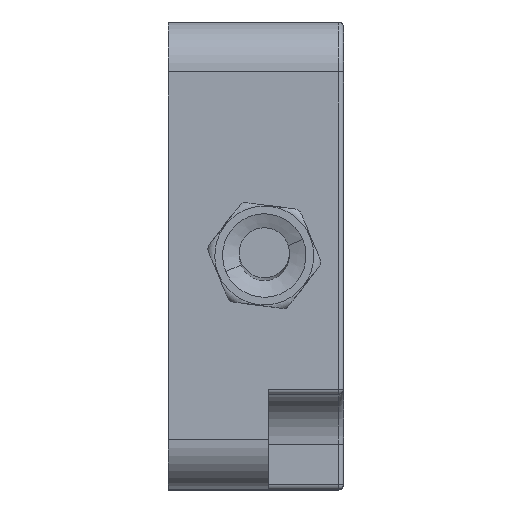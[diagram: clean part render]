
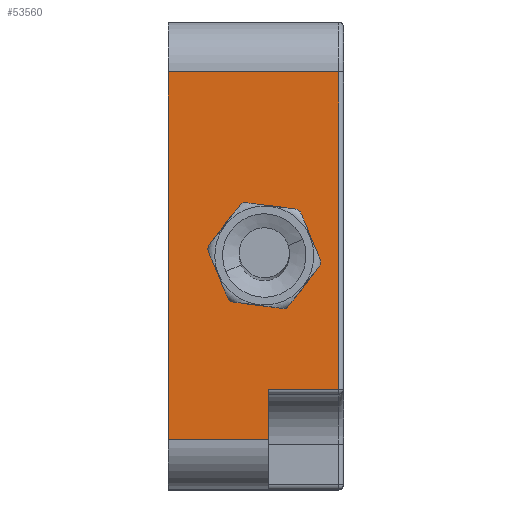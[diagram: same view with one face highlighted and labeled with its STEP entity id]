
A CAD part, top view. The second image highlights one B-rep face of the part: STEP entity #53560.
In plain terms, the highlighted planar face has unit normal (0, 0, 1).
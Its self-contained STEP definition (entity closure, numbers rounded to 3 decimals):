
#1179 = VERTEX_POINT ( 'NONE', #29872 ) ;
#2506 = CARTESIAN_POINT ( 'NONE',  ( 0., 14., 14. ) ) ;
#3420 = DIRECTION ( 'NONE',  ( 0., 0., 1. ) ) ;
#3576 = LINE ( 'NONE', #74008, #41723 ) ;
#3768 = DIRECTION ( 'NONE',  ( 1., 0., 0. ) ) ;
#6385 = CARTESIAN_POINT ( 'NONE',  ( 10.2, -8., 14. ) ) ;
#6468 = EDGE_CURVE ( 'NONE', #39587, #44352, #42503, .T. ) ;
#7460 = DIRECTION ( 'NONE',  ( 0., -1., 0. ) ) ;
#7676 = EDGE_CURVE ( 'NONE', #57811, #44949, #23048, .T. ) ;
#8774 = ORIENTED_EDGE ( 'NONE', *, *, #7676, .T. ) ;
#9456 = LINE ( 'NONE', #62726, #74661 ) ;
#9908 = EDGE_CURVE ( 'NONE', #1179, #57811, #55933, .T. ) ;
#13323 = EDGE_CURVE ( 'NONE', #21842, #64148, #55627, .T. ) ;
#13933 = CIRCLE ( 'NONE', #26132, 2.5 ) ;
#14241 = LINE ( 'NONE', #43197, #47879 ) ;
#14820 = CARTESIAN_POINT ( 'NONE',  ( 5.75, 0., 14. ) ) ;
#15156 = FACE_BOUND ( 'NONE', #41278, .T. ) ;
#15548 = DIRECTION ( 'NONE',  ( 0., 0., -1. ) ) ;
#15992 = CARTESIAN_POINT ( 'NONE',  ( 0., -11., 14. ) ) ;
#16896 = VERTEX_POINT ( 'NONE', #60719 ) ;
#17567 = VECTOR ( 'NONE', #3768, 1000. ) ;
#17699 = CARTESIAN_POINT ( 'NONE',  ( 10.2, 11., 14. ) ) ;
#21376 = EDGE_CURVE ( 'NONE', #64148, #21842, #13933, .T. ) ;
#21842 = VERTEX_POINT ( 'NONE', #45865 ) ;
#22402 = CARTESIAN_POINT ( 'NONE',  ( 5.75, 0., 14. ) ) ;
#23048 = LINE ( 'NONE', #17699, #51102 ) ;
#24727 = EDGE_LOOP ( 'NONE', ( #47791, #8774, #31064, #34908, #64559, #50564 ) ) ;
#26132 = AXIS2_PLACEMENT_3D ( 'NONE', #14820, #3420, #26651 ) ;
#26598 = DIRECTION ( 'NONE',  ( 1., 0., 0. ) ) ;
#26651 = DIRECTION ( 'NONE',  ( 1., 0., 0. ) ) ;
#29872 = CARTESIAN_POINT ( 'NONE',  ( 6., -8., 14. ) ) ;
#31064 = ORIENTED_EDGE ( 'NONE', *, *, #56236, .T. ) ;
#33644 = DIRECTION ( 'NONE',  ( 0., -1., 0. ) ) ;
#34908 = ORIENTED_EDGE ( 'NONE', *, *, #6468, .T. ) ;
#35741 = AXIS2_PLACEMENT_3D ( 'NONE', #73413, #15548, #38771 ) ;
#38386 = PLANE ( 'NONE',  #35741 ) ;
#38771 = DIRECTION ( 'NONE',  ( 0., 1., 0. ) ) ;
#39587 = VERTEX_POINT ( 'NONE', #50704 ) ;
#40440 = CARTESIAN_POINT ( 'NONE',  ( 10.2, 11., 14. ) ) ;
#41247 = VECTOR ( 'NONE', #7460, 1000. ) ;
#41278 = EDGE_LOOP ( 'NONE', ( #45329, #43437 ) ) ;
#41723 = VECTOR ( 'NONE', #33644, 1000. ) ;
#42503 = LINE ( 'NONE', #2506, #41247 ) ;
#43197 = CARTESIAN_POINT ( 'NONE',  ( 10.5, 11., 14. ) ) ;
#43437 = ORIENTED_EDGE ( 'NONE', *, *, #13323, .F. ) ;
#44352 = VERTEX_POINT ( 'NONE', #15992 ) ;
#44949 = VERTEX_POINT ( 'NONE', #40440 ) ;
#45329 = ORIENTED_EDGE ( 'NONE', *, *, #21376, .F. ) ;
#45865 = CARTESIAN_POINT ( 'NONE',  ( 3.25, 0., 14. ) ) ;
#47791 = ORIENTED_EDGE ( 'NONE', *, *, #9908, .T. ) ;
#47879 = VECTOR ( 'NONE', #66396, 1000. ) ;
#50564 = ORIENTED_EDGE ( 'NONE', *, *, #54872, .F. ) ;
#50586 = FACE_OUTER_BOUND ( 'NONE', #24727, .T. ) ;
#50704 = CARTESIAN_POINT ( 'NONE',  ( 0., 11., 14. ) ) ;
#51102 = VECTOR ( 'NONE', #58418, 1000. ) ;
#53410 = EDGE_CURVE ( 'NONE', #44352, #16896, #9456, .T. ) ;
#53560 = ADVANCED_FACE ( 'NONE', ( #15156, #50586 ), #38386, .F. ) ;
#54872 = EDGE_CURVE ( 'NONE', #1179, #16896, #3576, .T. ) ;
#55627 = CIRCLE ( 'NONE', #73902, 2.5 ) ;
#55933 = LINE ( 'NONE', #67719, #17567 ) ;
#56236 = EDGE_CURVE ( 'NONE', #44949, #39587, #14241, .T. ) ;
#57811 = VERTEX_POINT ( 'NONE', #6385 ) ;
#58418 = DIRECTION ( 'NONE',  ( 0., 1., 0. ) ) ;
#60719 = CARTESIAN_POINT ( 'NONE',  ( 6., -11., 14. ) ) ;
#61593 = DIRECTION ( 'NONE',  ( 1., 0., 0. ) ) ;
#62345 = DIRECTION ( 'NONE',  ( 0., 0., 1. ) ) ;
#62726 = CARTESIAN_POINT ( 'NONE',  ( 10.5, -11., 14. ) ) ;
#64148 = VERTEX_POINT ( 'NONE', #75292 ) ;
#64559 = ORIENTED_EDGE ( 'NONE', *, *, #53410, .T. ) ;
#66396 = DIRECTION ( 'NONE',  ( -1., 0., 0. ) ) ;
#67719 = CARTESIAN_POINT ( 'NONE',  ( 10.5, -8., 14. ) ) ;
#73413 = CARTESIAN_POINT ( 'NONE',  ( 10.5, 14., 14. ) ) ;
#73902 = AXIS2_PLACEMENT_3D ( 'NONE', #22402, #62345, #26598 ) ;
#74008 = CARTESIAN_POINT ( 'NONE',  ( 6., -8.3, 14. ) ) ;
#74661 = VECTOR ( 'NONE', #61593, 1000. ) ;
#75292 = CARTESIAN_POINT ( 'NONE',  ( 8.25, 0., 14. ) ) ;
